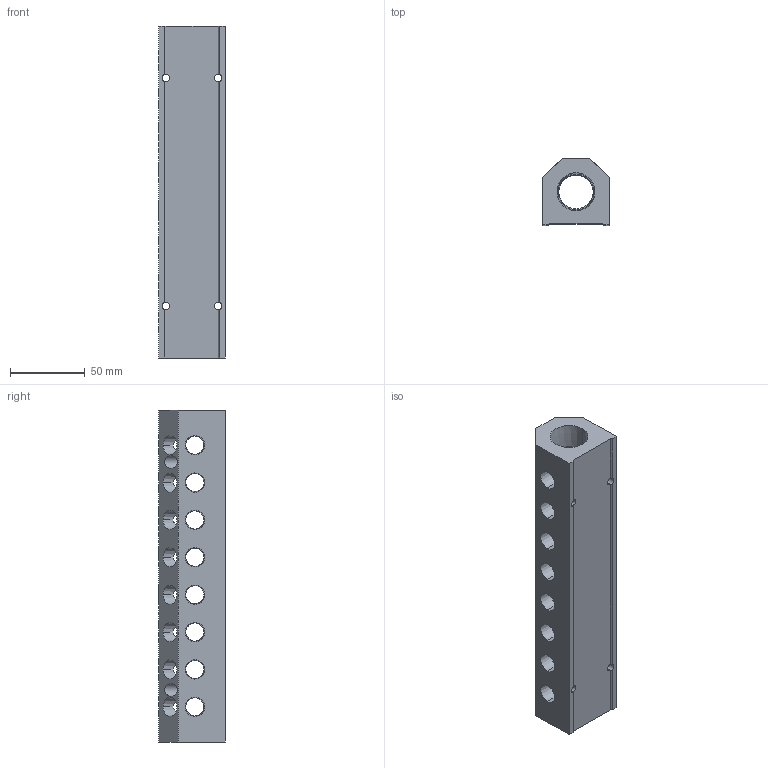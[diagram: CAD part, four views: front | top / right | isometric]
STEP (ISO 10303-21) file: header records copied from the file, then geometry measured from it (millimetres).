
FILE_DESCRIPTION (( 'STEP AP214' ), '1' );
FILE_NAME ('ALM8ABCDE-N4N12-222R.step', '2022-02-06T14:06:16', ( '' ), ( '' ), 'SwSTEP 2.0', 'SolidWorks 2020', '' );
FILE_SCHEMA (( 'AUTOMOTIVE_DESIGN' ));
Length unit declared in the file: millimetre
Products named in the file (1): ALM8ABCDE-N4N12-222R
Bounding box: 44.5 x 44.5 x 222 mm (x, y, z)
Volume: 240700.3 mm3; surface area: 64925.2 mm2
Topology: 1 solids, 1 shells, 443 faces, 1324 edges, 880 vertices
Faces by surface type: plane 240, cone 94, bspline 73, cylinder 36
Entity records: 26563 total; most frequent: CARTESIAN_POINT 11327, ORIENTED_EDGE 2648, DIRECTION 1792, EDGE_CURVE 1324, VERTEX_POINT 880, LINE 778, VECTOR 778, EDGE_LOOP 530
